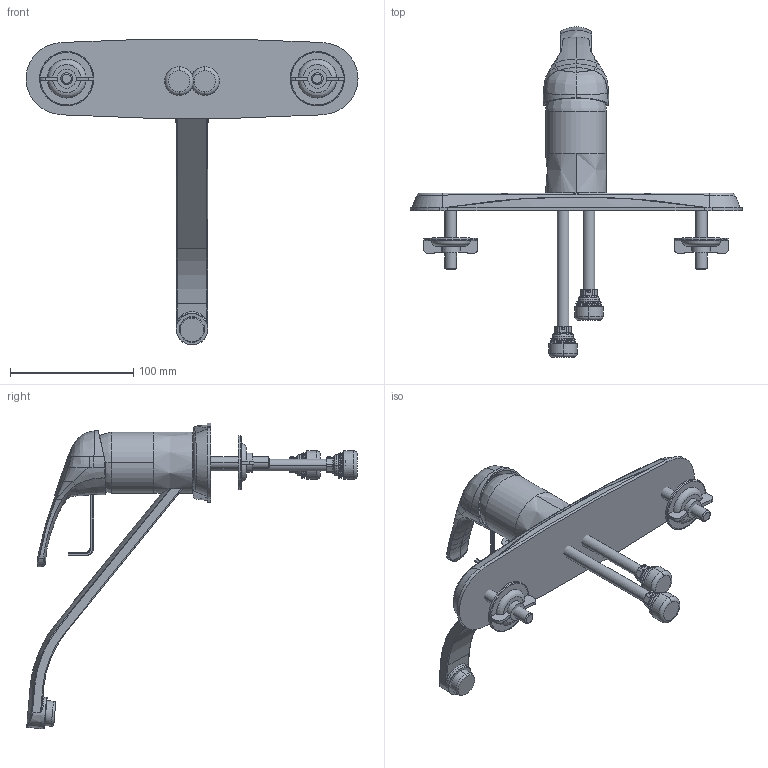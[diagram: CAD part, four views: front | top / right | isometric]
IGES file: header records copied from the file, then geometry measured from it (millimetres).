
Start section:  PTC IGES file: 431-abcp_sw0001.igs
Global section: file name: 431-abcp_sw0001.igs; native system: Pro/ENGINEER by Parametric Technology Corporation; preprocessor: 2011330; author: jrodriguez; organization: Unknown; date: 20120113.084428; units: inch
Bounding box: 269.26 x 268.2 x 248.08 mm (x, y, z)
Surface area: 126047.3 mm2 (no closed solid volume)
Topology: 0 solids, 0 shells, 422 faces, 4197 edges, 5835 vertices
Faces by surface type: bspline 258, revolution 156, extrusion 8
